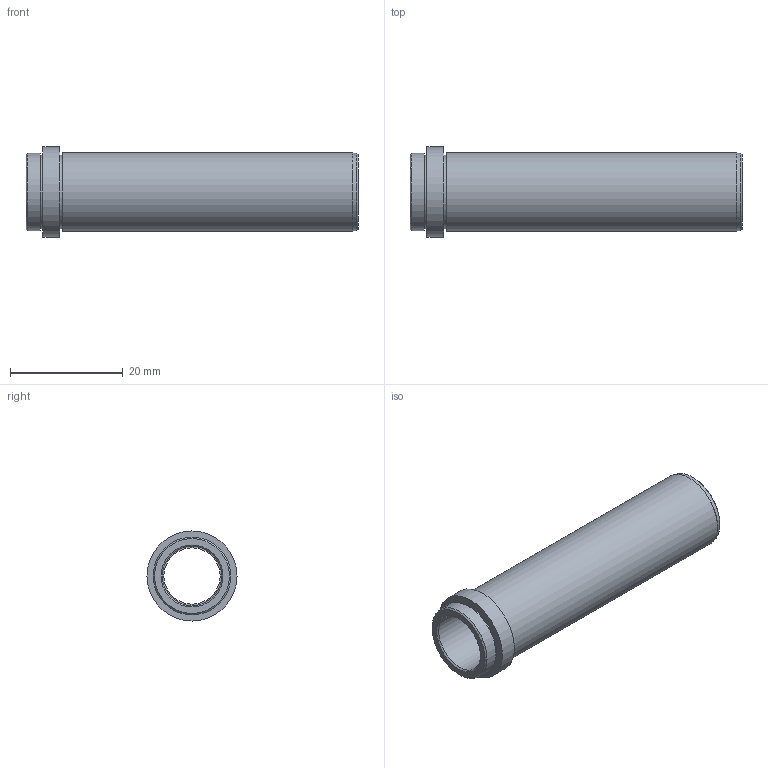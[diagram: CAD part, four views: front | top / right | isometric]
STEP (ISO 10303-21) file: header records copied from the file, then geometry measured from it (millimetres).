
FILE_DESCRIPTION(/* description */ ('Impex Ready, www.impex-ready.pl'),/* implementation_level */ '2;1');
FILE_NAME(/* name */ 'C:\Users\VIKKY\Nextcloud\SM\projekt 10 - części na stronę internetową\Pliki_3D_new\308 Tuleje BG06\308 BG06_STEP\BG06.010056.ipt.step',/* time_stamp */ '2021-12-21T17:31:54+01:00',/* author */ ('SM'),/* organization */ (''),/* preprocessor_version */ 'ST-DEVELOPER v18.1',/* originating_system */ 'Autodesk Inventor 2021',/* authorisation */ '');
FILE_SCHEMA (('AUTOMOTIVE_DESIGN { 1 0 10303 214 3 1 1 }'));
Length unit declared in the file: millimetre
Products named in the file (1): BG06.010056
Bounding box: 59 x 16 x 16 mm (x, y, z)
Volume: 4251.1 mm3; surface area: 4819.2 mm2
Topology: 1 solids, 1 shells, 20 faces, 36 edges, 24 vertices
Faces by surface type: plane 8, cylinder 8, cone 4
Full cylindrical faces by diameter (mm): 10 x1, 10.5 x1, 13 x2, 13.8 x2, 14 x1, 16 x1
Entity records: 605 total; most frequent: DIRECTION 102, CARTESIAN_POINT 81, ORIENTED_EDGE 72, AXIS2_PLACEMENT_3D 45, EDGE_CURVE 36, EDGE_LOOP 28, CIRCLE 24, VERTEX_POINT 24
